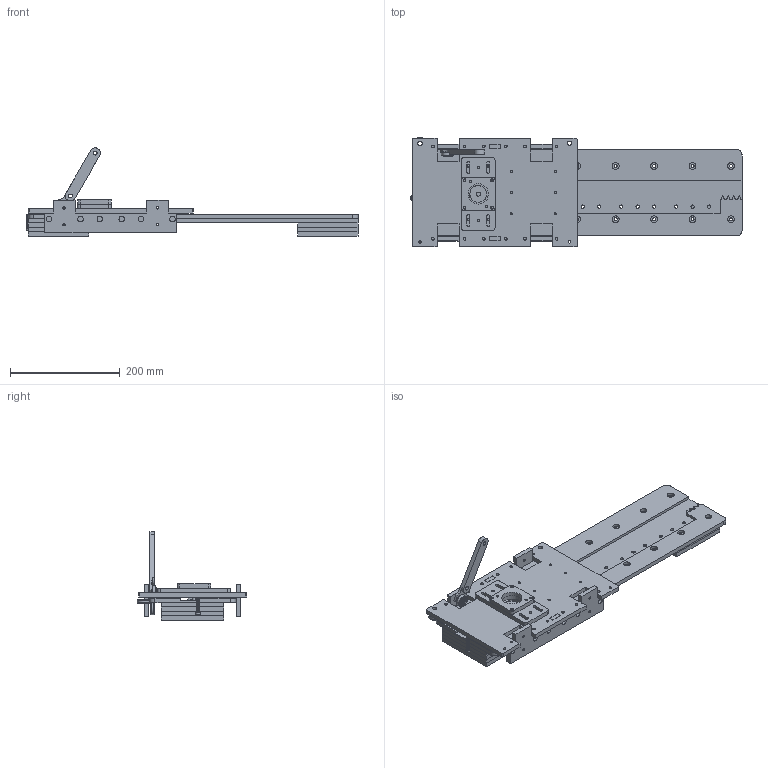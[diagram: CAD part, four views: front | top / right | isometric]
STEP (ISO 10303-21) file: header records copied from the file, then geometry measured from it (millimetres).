
FILE_DESCRIPTION(/* description */ (''),/* implementation_level */ '2;1');
FILE_NAME(/* name */ 'C:/Users/jakob/Documents/GitHub/fabricatable-machines/wiki-media/fab14_workshop/Test axis Fusion360 6mm Axis with CAM v6 v16-save v7.step',/* time_stamp */ '2018-07-21T18:16:20+02:00',/* author */ ('jaknil'),/* organization */ (''),/* preprocessor_version */ 'ST-DEVELOPER v17',/* originating_system */ 'Autodesk Translation Framework v7.1.0.215',/* authorisation */ '');
FILE_SCHEMA (('AUTOMOTIVE_DESIGN { 1 0 10303 214 3 1 1 }','TECHNICAL_DATA_PACKAGING'));
Length unit declared in the file: millimetre
Products named in the file (20): Test axis Fusion360 6mm Axis with CAM v6 v16-save; Rack; main; piece; Pinion; Axis_plate; Motor_spacer; Wheels; top_wheel_holder; top_wheel_holder(Mirror); motor_plate; tool; Roller; 608 bearing; Excenter; M5x25; M5_washer; backing; pad; main_back
Assembly tree (28 placements, depth 3):
  Test axis Fusion360 6mm Axis with CAM v6 v16-save
    Rack
      main
      piece
    Pinion
    Axis_plate
    Motor_spacer
    Wheels
      608 bearing
      Excenter
      top_wheel_holder
      top_wheel_holder(Mirror)
    608 bearing  x2
    motor_plate
    tool
    Roller
      608 bearing
      Excenter
      M5x25
      M5_washer
    backing
      pad  x6
      main_back
Bounding box: 604.25 x 199.28 x 160.65 mm (x, y, z)
Volume: 2386755.5 mm3; surface area: 762280 mm2
Topology: 24 solids, 24 shells, 847 faces, 2219 edges, 1489 vertices
Faces by surface type: cylinder 404, plane 283, bspline 110, torus 40, cone 10
Full cylindrical faces by diameter (mm): 3.961 x26, 4.2 x22, 4.5 x4, 5 x41, 5.2 x4, 5.254 x1, 5.4 x1, 5.5 x60, 6 x27, 7 x2, 8 x10, 8.5 x1, 10 x12, 12.1 x8, 12.4 x2, 12.5 x42, 14.8 x1, 19.2 x8, 22 x4, 30.399 x1, 37 x1, 39 x1
Entity records: 32171 total; most frequent: CARTESIAN_POINT 14506, ORIENTED_EDGE 3652, DIRECTION 3279, EDGE_CURVE 1826, AXIS2_PLACEMENT_3D 1246, VERTEX_POINT 1219, EDGE_LOOP 975, LINE 787
